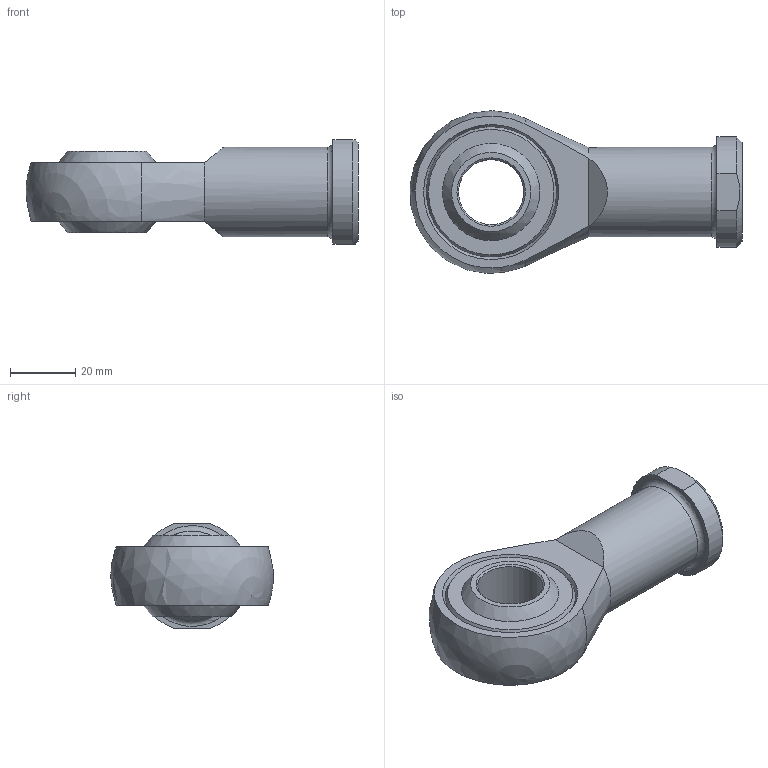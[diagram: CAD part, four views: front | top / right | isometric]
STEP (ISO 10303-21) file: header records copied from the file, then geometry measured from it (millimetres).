
FILE_DESCRIPTION(/* description */ (''),/* implementation_level */ '2;1');
FILE_NAME(/* name */ 'LAOAA-M20x1,5.step',/* time_stamp */ '2026-08-18T09:16:00+02:00',/* author */ ('octogon GmbH'),/* organization */ ('octogon GmbH'),/* preprocessor_version */ 'ST-DEVELOPER v16.13',/* originating_system */ 'Autodesk Inventor LT',/* authorisation */ '');
FILE_SCHEMA (('AUTOMOTIVE_DESIGN { 1 0 10303 214 3 1 1 }'));
Length unit declared in the file: millimetre
Products named in the file (1): LAOAA-M20x1,5 rod end, stainless steel, female thread M20x1.5
Bounding box: 101.92 x 49.91 x 32 mm (x, y, z)
Volume: 50343.5 mm3; surface area: 19575.5 mm2
Topology: 1 solids, 2 shells, 36 faces, 81 edges, 55 vertices
Faces by surface type: plane 14, cone 11, sphere 5, cylinder 5, torus 1
Full cylindrical faces by diameter (mm): 18.376 x1, 20 x1, 27.5 x1
Entity records: 1084 total; most frequent: CARTESIAN_POINT 364, DIRECTION 154, ORIENTED_EDGE 104, AXIS2_PLACEMENT_3D 73, EDGE_LOOP 62, EDGE_CURVE 52, VERTEX_POINT 42, ADVANCED_FACE 36
